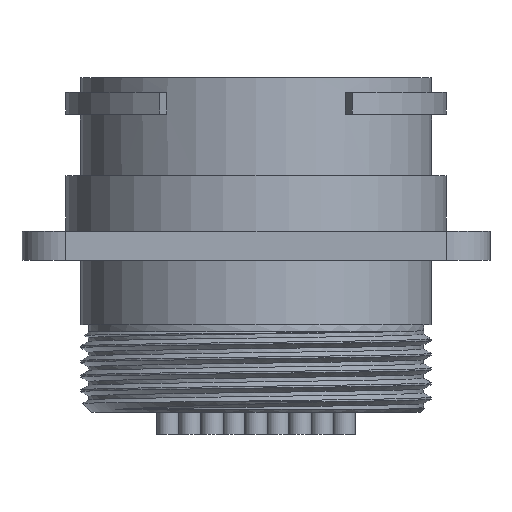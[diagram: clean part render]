
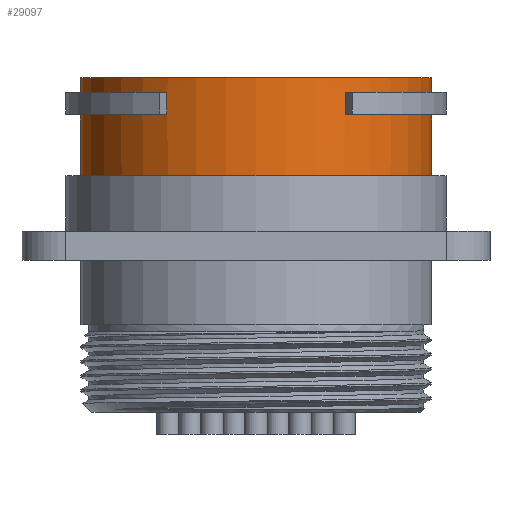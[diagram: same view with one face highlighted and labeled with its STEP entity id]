
A CAD part, front view. The second image highlights one B-rep face of the part: STEP entity #29097.
In plain terms, the highlighted cylindrical face has radius 12 mm (diameter 24 mm), a partial arc.
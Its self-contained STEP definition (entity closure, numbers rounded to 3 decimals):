
#301 = DIRECTION ( 'NONE',  ( 0., 0., 1. ) ) ;
#358 = CYLINDRICAL_SURFACE ( 'NONE', #24087, 12. ) ;
#1743 = ORIENTED_EDGE ( 'NONE', *, *, #29918, .T. ) ;
#1807 = FACE_BOUND ( 'NONE', #36692, .T. ) ;
#1994 = CARTESIAN_POINT ( 'NONE',  ( 0., 0., -6.7 ) ) ;
#2660 = DIRECTION ( 'NONE',  ( 0.5, 0.866, 0. ) ) ;
#2905 = AXIS2_PLACEMENT_3D ( 'NONE', #48130, #20302, #52813 ) ;
#3705 = EDGE_CURVE ( 'NONE', #34982, #30865, #46090, .T. ) ;
#4201 = ORIENTED_EDGE ( 'NONE', *, *, #50819, .F. ) ;
#4558 = CARTESIAN_POINT ( 'NONE',  ( 12., 0., -6.7 ) ) ;
#5029 = DIRECTION ( 'NONE',  ( 0., 0., -1. ) ) ;
#5954 = VERTEX_POINT ( 'NONE', #6513 ) ;
#6323 = EDGE_CURVE ( 'NONE', #11392, #44320, #26278, .T. ) ;
#6513 = CARTESIAN_POINT ( 'NONE',  ( -6.09, -10.34, -2.5 ) ) ;
#6630 = CIRCLE ( 'NONE', #2905, 12. ) ;
#6659 = DIRECTION ( 'NONE',  ( -1., 0., 0. ) ) ;
#6758 = VECTOR ( 'NONE', #49227, 1000. ) ;
#7348 = DIRECTION ( 'NONE',  ( 0., 0., -1. ) ) ;
#7378 = CARTESIAN_POINT ( 'NONE',  ( -12., -0.105, -18.056 ) ) ;
#7722 = CARTESIAN_POINT ( 'NONE',  ( 6.09, -10.34, -2.5 ) ) ;
#8028 = CARTESIAN_POINT ( 'NONE',  ( 6.09, -10.34, -18.056 ) ) ;
#9548 = VERTEX_POINT ( 'NONE', #24316 ) ;
#9759 = EDGE_CURVE ( 'NONE', #42869, #46337, #31822, .T. ) ;
#11324 = CIRCLE ( 'NONE', #46608, 12. ) ;
#11392 = VERTEX_POINT ( 'NONE', #4558 ) ;
#12344 = EDGE_CURVE ( 'NONE', #5954, #34982, #48998, .T. ) ;
#12434 = ORIENTED_EDGE ( 'NONE', *, *, #26206, .T. ) ;
#12921 = VERTEX_POINT ( 'NONE', #45251 ) ;
#13447 = ORIENTED_EDGE ( 'NONE', *, *, #48624, .T. ) ;
#14133 = FACE_BOUND ( 'NONE', #37236, .T. ) ;
#15022 = ORIENTED_EDGE ( 'NONE', *, *, #6323, .F. ) ;
#16538 = ORIENTED_EDGE ( 'NONE', *, *, #3705, .F. ) ;
#17921 = CIRCLE ( 'NONE', #29341, 12. ) ;
#18157 = LINE ( 'NONE', #56919, #42885 ) ;
#19007 = DIRECTION ( 'NONE',  ( 0., 0., -1. ) ) ;
#20232 = DIRECTION ( 'NONE',  ( 0., 0., -1. ) ) ;
#20302 = DIRECTION ( 'NONE',  ( 0., 0., -1. ) ) ;
#21120 = VECTOR ( 'NONE', #54622, 1000. ) ;
#21463 = CARTESIAN_POINT ( 'NONE',  ( 6.09, -10.34, -1. ) ) ;
#21973 = CARTESIAN_POINT ( 'NONE',  ( -12., 0., -6.7 ) ) ;
#22614 = VERTEX_POINT ( 'NONE', #28956 ) ;
#23529 = CIRCLE ( 'NONE', #47851, 12. ) ;
#23659 = DIRECTION ( 'NONE',  ( -1., 0., 0. ) ) ;
#24087 = AXIS2_PLACEMENT_3D ( 'NONE', #51300, #19007, #23659 ) ;
#24316 = CARTESIAN_POINT ( 'NONE',  ( -12., 0., 0. ) ) ;
#25310 = VERTEX_POINT ( 'NONE', #36880 ) ;
#26206 = EDGE_CURVE ( 'NONE', #25310, #9548, #11324, .T. ) ;
#26278 = CIRCLE ( 'NONE', #30546, 12. ) ;
#26493 = FACE_OUTER_BOUND ( 'NONE', #27139, .T. ) ;
#27139 = EDGE_LOOP ( 'NONE', ( #49718, #12434, #55084, #15022 ) ) ;
#28117 = CARTESIAN_POINT ( 'NONE',  ( 12., -0.105, -18.056 ) ) ;
#28956 = CARTESIAN_POINT ( 'NONE',  ( 12., -0.105, -1. ) ) ;
#29097 = ADVANCED_FACE ( 'NONE', ( #26493, #1807, #14133 ), #358, .T. ) ;
#29341 = AXIS2_PLACEMENT_3D ( 'NONE', #32847, #5029, #37522 ) ;
#29918 = EDGE_CURVE ( 'NONE', #12921, #42869, #23529, .T. ) ;
#30489 = DIRECTION ( 'NONE',  ( 0., 0., -1. ) ) ;
#30546 = AXIS2_PLACEMENT_3D ( 'NONE', #1994, #34478, #6659 ) ;
#30834 = EDGE_CURVE ( 'NONE', #46352, #30865, #54734, .T. ) ;
#30865 = VERTEX_POINT ( 'NONE', #49423 ) ;
#31822 = LINE ( 'NONE', #8028, #33292 ) ;
#31953 = DIRECTION ( 'NONE',  ( 0., 0., 1. ) ) ;
#32847 = CARTESIAN_POINT ( 'NONE',  ( 0., 0., -2.5 ) ) ;
#33292 = VECTOR ( 'NONE', #44780, 1000. ) ;
#34372 = CARTESIAN_POINT ( 'NONE',  ( 0., 0., -1. ) ) ;
#34478 = DIRECTION ( 'NONE',  ( 0., 0., -1. ) ) ;
#34982 = VERTEX_POINT ( 'NONE', #45684 ) ;
#36662 = VECTOR ( 'NONE', #31953, 1000. ) ;
#36692 = EDGE_LOOP ( 'NONE', ( #53985, #13447, #54048, #16538 ) ) ;
#36880 = CARTESIAN_POINT ( 'NONE',  ( 12., 0., 0. ) ) ;
#37236 = EDGE_LOOP ( 'NONE', ( #4201, #1743, #54856, #56328 ) ) ;
#37522 = DIRECTION ( 'NONE',  ( 0.5, -0.866, 0. ) ) ;
#39423 = EDGE_CURVE ( 'NONE', #22614, #46337, #6630, .T. ) ;
#39446 = AXIS2_PLACEMENT_3D ( 'NONE', #34372, #7348, #39871 ) ;
#39603 = EDGE_CURVE ( 'NONE', #25310, #11392, #58205, .T. ) ;
#39871 = DIRECTION ( 'NONE',  ( -0.5, 0.866, 0. ) ) ;
#40560 = EDGE_CURVE ( 'NONE', #9548, #44320, #18157, .T. ) ;
#42869 = VERTEX_POINT ( 'NONE', #7722 ) ;
#42885 = VECTOR ( 'NONE', #52432, 1000. ) ;
#44320 = VERTEX_POINT ( 'NONE', #21973 ) ;
#44780 = DIRECTION ( 'NONE',  ( 0., 0., 1. ) ) ;
#45251 = CARTESIAN_POINT ( 'NONE',  ( 12., -0.105, -2.5 ) ) ;
#45684 = CARTESIAN_POINT ( 'NONE',  ( -6.09, -10.34, -1. ) ) ;
#46090 = CIRCLE ( 'NONE', #39446, 12. ) ;
#46215 = VECTOR ( 'NONE', #301, 1000. ) ;
#46337 = VERTEX_POINT ( 'NONE', #21463 ) ;
#46352 = VERTEX_POINT ( 'NONE', #49687 ) ;
#46608 = AXIS2_PLACEMENT_3D ( 'NONE', #48059, #20232, #52732 ) ;
#47851 = AXIS2_PLACEMENT_3D ( 'NONE', #58320, #30489, #2660 ) ;
#48059 = CARTESIAN_POINT ( 'NONE',  ( 0., 0., 0. ) ) ;
#48130 = CARTESIAN_POINT ( 'NONE',  ( 0., 0., -1. ) ) ;
#48624 = EDGE_CURVE ( 'NONE', #5954, #46352, #17921, .T. ) ;
#48998 = LINE ( 'NONE', #59796, #36662 ) ;
#49227 = DIRECTION ( 'NONE',  ( 0., 0., 1. ) ) ;
#49423 = CARTESIAN_POINT ( 'NONE',  ( -12., -0.105, -1. ) ) ;
#49687 = CARTESIAN_POINT ( 'NONE',  ( -12., -0.105, -2.5 ) ) ;
#49718 = ORIENTED_EDGE ( 'NONE', *, *, #39603, .F. ) ;
#49916 = CARTESIAN_POINT ( 'NONE',  ( 12., 0., -28.641 ) ) ;
#50819 = EDGE_CURVE ( 'NONE', #12921, #22614, #60035, .T. ) ;
#51300 = CARTESIAN_POINT ( 'NONE',  ( 0., 0., -28.641 ) ) ;
#52432 = DIRECTION ( 'NONE',  ( 0., 0., -1. ) ) ;
#52732 = DIRECTION ( 'NONE',  ( -1., 0., 0. ) ) ;
#52813 = DIRECTION ( 'NONE',  ( -0.5, -0.866, 0. ) ) ;
#53985 = ORIENTED_EDGE ( 'NONE', *, *, #12344, .F. ) ;
#54048 = ORIENTED_EDGE ( 'NONE', *, *, #30834, .T. ) ;
#54622 = DIRECTION ( 'NONE',  ( 0., 0., -1. ) ) ;
#54734 = LINE ( 'NONE', #7378, #6758 ) ;
#54856 = ORIENTED_EDGE ( 'NONE', *, *, #9759, .T. ) ;
#55084 = ORIENTED_EDGE ( 'NONE', *, *, #40560, .T. ) ;
#56328 = ORIENTED_EDGE ( 'NONE', *, *, #39423, .F. ) ;
#56919 = CARTESIAN_POINT ( 'NONE',  ( -12., 0., -28.641 ) ) ;
#58205 = LINE ( 'NONE', #49916, #21120 ) ;
#58320 = CARTESIAN_POINT ( 'NONE',  ( 0., 0., -2.5 ) ) ;
#59796 = CARTESIAN_POINT ( 'NONE',  ( -6.09, -10.34, -18.056 ) ) ;
#60035 = LINE ( 'NONE', #28117, #46215 ) ;
